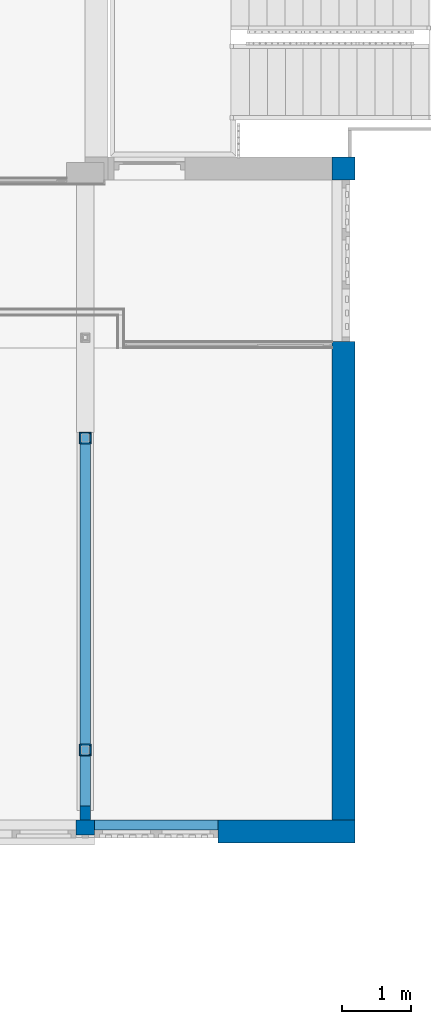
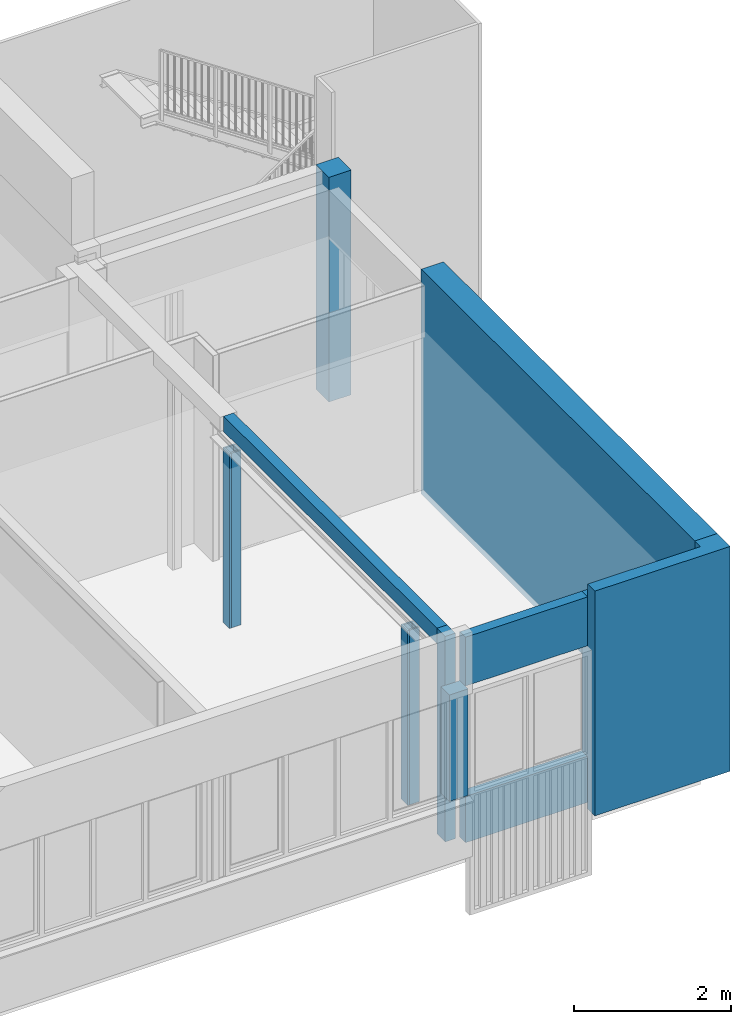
# One storey, part 65 of 117: 15 walls, 1 opening.
"""IFC2X3 building model written with IfcOpenShell, lengths in millimetres."""

from ifc_helpers import new_model, entity, si_unit, converted_unit, derived_unit, money_unit, direction, frame, origin_with_axes, place, context, subcontext, project, spatial, faceted_brep, material, type_object, element, save


model = new_model("IFC2X3")

# Units and contexts
model_context = context("Model", 3, precision=0.01, world=origin_with_axes(), true_north=direction((0.0, 1.0)))
body_context = subcontext(model_context, "Body", "Model", "MODEL_VIEW")
ifc_project = project(units=[si_unit("LENGTHUNIT", "METRE", prefix="MILLI"), si_unit("AREAUNIT", "SQUARE_METRE"), si_unit("VOLUMEUNIT", "CUBIC_METRE"), converted_unit("PLANEANGLEUNIT", "DEGREE", entity("IfcPlaneAngleMeasure", 0.0174532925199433), si_unit("PLANEANGLEUNIT", "RADIAN"), dimensions=[0, 0, 0, 0, 0, 0, 0]), money_unit("EUR"), converted_unit("TIMEUNIT", "Year", entity("IfcTimeMeasure", 31557600.0), si_unit("TIMEUNIT", "SECOND"), dimensions=[0, 0, 1, 0, 0, 0, 0]), si_unit("MASSUNIT", "GRAM", prefix="KILO"), si_unit("THERMODYNAMICTEMPERATUREUNIT", "DEGREE_CELSIUS"), si_unit("LUMINOUSINTENSITYUNIT", "LUMEN"), si_unit("ENERGYUNIT", "JOULE", prefix="MEGA"), derived_unit("THERMALCONDUCTANCEUNIT", [(si_unit("POWERUNIT", "WATT"), 1), (si_unit("LENGTHUNIT", "METRE"), -1), (si_unit("THERMODYNAMICTEMPERATUREUNIT", "KELVIN"), -1)]), derived_unit("SPECIFICHEATCAPACITYUNIT", [(si_unit("ENERGYUNIT", "JOULE"), 1), (si_unit("MASSUNIT", "GRAM", prefix="KILO"), -1), (si_unit("THERMODYNAMICTEMPERATUREUNIT", "KELVIN"), -1)]), derived_unit("MASSDENSITYUNIT", [(si_unit("MASSUNIT", "GRAM", prefix="KILO"), 1), (si_unit("VOLUMEUNIT", "CUBIC_METRE"), -1)])], contexts=[model_context])

# Site, building, storey
site_placement = place(None, origin_with_axes())
site = spatial("IfcSite", under=ifc_project, at=site_placement, Name="Site", CompositionType="ELEMENT")
building_placement = place(site_placement, origin_with_axes())
building = spatial("IfcBuilding", under=site, at=building_placement, Name="Naam gebouw", CompositionType="ELEMENT")
storey_placement = place(building_placement, frame((0.0, 0.0, 4150.0), z_axis=(0.0, 0.0, 1.0), x_axis=(1.0, 0.0, 0.0)))
storey = spatial("IfcBuildingStorey", under=building, at=storey_placement, Name="1e verdieping N", CompositionType="ELEMENT", Elevation=4150.0)

# Walls
ifc_material_1 = material(Name="ALG - CONSTRUCTIEF")
wall_type_1 = type_object("IfcWallType", Name="ALG - CONSTRUCTIEF 150", PredefinedType="NOTDEFINED")
wall_1_placement = place(storey_placement, frame((53999.99999999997, 10990.91242510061, -99.99999999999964), z_axis=(0.0, 0.0, 1.0), x_axis=(0.0, 1.0, 0.0)))
element("IfcWall", 1, at=wall_1_placement, inside=storey, type_object=wall_type_1, material=ifc_material_1, Name="_Wand-x", context=body_context, shape_type="Brep", body=[
    faceted_brep([(209.9999999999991, -75.00000000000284, 3300.0), (0.0, -75.00000000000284, 3300.0), (0.0, -75.00000000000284, 99.99999999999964), (209.9999999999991, -75.00000000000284, 99.99999999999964), (209.9999999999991, 75.00000000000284, 3300.0), (0.0, 75.00000000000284, 3300.0), (0.0, 75.00000000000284, 99.99999999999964), (209.9999999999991, 75.00000000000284, 99.99999999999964)], [[[0, 1, 2, 3]], [[4, 5, 1, 0]], [[1, 5, 6, 2]], [[2, 6, 7, 3]], [[4, 0, 3, 7]], [[5, 4, 7, 6]]]),
])
wall_type_2 = type_object("IfcWallType", Name="ALG - CONSTRUCTIEF 330", PredefinedType="NOTDEFINED")
wall_2_placement = place(storey_placement, frame((57599.99999999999, 10990.91242510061, -99.99999999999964), z_axis=(0.0, 0.0, 1.0), x_axis=(-1.0, 0.0, 0.0)))
element("IfcWall", 2, at=wall_2_placement, inside=storey, type_object=wall_type_2, material=ifc_material_1, Name="_Wand-x", context=body_context, shape_type="Brep", body=[
    faceted_brep([(0.0, 0.0, 0.0), (0.0, 0.0, 99.99999999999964), (1661.843280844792, 0.0, 99.99999999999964), (1661.843280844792, 0.0, 3300.0), (0.0, 0.0, 3300.0), (0.0, 0.0, 3500.0), (-329.9999999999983, 0.0, 3500.0), (-329.9999999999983, 0.0, 0.0), (0.0, 146.0000000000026, 99.99999999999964), (0.0, 146.0000000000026, 0.0), (1661.843280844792, 146.0000000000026, 99.99999999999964), (1661.843280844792, 146.0000000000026, 0.0), (1661.843280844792, 330.0000000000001, 0.0), (1661.843280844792, 330.0000000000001, 3500.0), (1661.843280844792, 146.0000000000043, 3500.0), (1661.843280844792, 146.0000000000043, 3300.0), (0.0, 146.0000000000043, 3300.0), (0.0, 146.0000000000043, 3500.0), (-329.9999999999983, 330.0000000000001, 3500.0), (-329.9999999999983, 330.0000000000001, 0.0)], [[[0, 1, 2, 3, 4, 5, 6, 7]], [[8, 1, 0, 9]], [[10, 2, 1, 8]], [[2, 10, 11, 12, 13, 14, 15, 3]], [[16, 4, 3, 15]], [[16, 17, 5, 4]], [[5, 17, 14, 13, 18, 6]], [[6, 18, 19, 7]], [[11, 9, 0, 7, 19, 12]], [[8, 9, 11, 10]], [[19, 18, 13, 12]], [[15, 14, 17, 16]]]),
])

# Wall, opening
wall_3_placement = place(storey_placement, frame((57599.99999999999, 20655.9124251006, -99.99999999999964), z_axis=(0.0, 0.0, 1.0), x_axis=(0.0, -1.0, 0.0)))
wall_3 = element("IfcWall", 3, at=wall_3_placement, inside=storey, type_object=wall_type_2, material=ifc_material_1, Name="_Wand-x", context=body_context, shape_type="Brep", body=[
    faceted_brep([(2684.999999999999, 259.999999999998, 0.0), (2684.999999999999, 0.0, 0.0), (2684.999999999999, 0.0, 3500.0), (2684.999999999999, 259.999999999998, 3500.0), (2684.999999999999, 329.9999999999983, 3500.0), (2684.999999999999, 329.9999999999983, 0.0), (9664.999999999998, 329.9999999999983, 0.0), (9664.999999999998, 0.0, 0.0), (9664.999999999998, 0.0, 3500.0), (9664.999999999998, 329.9999999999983, 3500.0)], [[[0, 1, 2, 3, 4, 5]], [[1, 0, 5, 6, 7]], [[2, 1, 7, 8]], [[3, 2, 8, 9, 4]], [[4, 9, 6, 5]], [[6, 9, 8, 7]]]),
    faceted_brep([(330.0000000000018, 0.0, 3500.0), (330.0000000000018, 259.999999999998, 3500.0), (330.0000000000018, 329.9999999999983, 3500.0), (0.0, 329.9999999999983, 3500.0), (0.0, 0.0, 3500.0), (330.0000000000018, 0.0, 0.0), (330.0000000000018, 259.999999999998, 0.0), (330.0000000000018, 329.9999999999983, 0.0), (0.0, 329.9999999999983, 0.0), (0.0, 0.0, 0.0)], [[[0, 1, 2, 3, 4]], [[1, 0, 5, 6, 7, 2]], [[7, 8, 3, 2]], [[8, 9, 4, 3]], [[5, 0, 4, 9]], [[6, 5, 9, 8, 7]]]),
])
opening_placement = place(wall_3_placement, frame((1507.5, 0.0, -959.9999999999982), z_axis=(0.0, 0.0, 1.0), x_axis=(1.0, 0.0, 0.0)))
element("IfcOpeningElement", 4, at=opening_placement, cuts=wall_3, Name="_Merk-039", context=body_context, shape_type="Brep", body=[
    faceted_brep([(-1177.499999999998, 259.999999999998, 0.0), (-1177.499999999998, 259.999999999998, 4500.0), (-1177.499999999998, 330.999999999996, 4500.0), (-1177.499999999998, 330.999999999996, 0.0), (-1177.499999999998, -0.9999999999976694, 0.0), (-1177.499999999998, -0.9999999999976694, 4500.0), (1177.499999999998, 259.999999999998, 4500.0), (1177.499999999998, 330.999999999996, 4500.0), (1177.499999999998, -0.9999999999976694, 4500.0), (1177.499999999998, 330.999999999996, 0.0), (1177.499999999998, 259.999999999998, 0.0), (1177.499999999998, -0.9999999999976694, 0.0)], [[[0, 1, 2, 3]], [[1, 0, 4, 5]], [[6, 7, 2, 1, 5, 8]], [[7, 9, 3, 2]], [[0, 3, 9, 10, 11, 4]], [[5, 4, 11, 8]], [[6, 10, 9, 7]], [[10, 6, 8, 11]]]),
])

# Walls
wall_type_3 = type_object("IfcWallType", Name="ALG - CONSTRUCTIEF 146", PredefinedType="NOTDEFINED")
wall_4_placement = place(storey_placement, frame((55937.49999999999, 10990.91242510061, 2440.0), z_axis=(0.0, 0.0, 1.0), x_axis=(-1.0, 0.0, 0.0)))
element("IfcWall", 5, at=wall_4_placement, inside=storey, type_object=wall_type_3, material=ifc_material_1, Name="_Wand-x", context=body_context, shape_type="Brep", body=[
    faceted_brep([(0.0, 146.0000000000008, 0.0), (1799.999999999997, 145.999999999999, 0.0), (1799.999999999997, 0.0, 0.0), (0.0, 0.0, 0.0), (0.0, 146.0000000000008, 760.0000000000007), (1799.999999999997, 146.0000000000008, 760.0000000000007), (1799.999999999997, 0.0, 760.0000000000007), (0.0, 0.0, 760.0000000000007)], [[[0, 1, 2, 3]], [[4, 5, 1, 0]], [[2, 1, 5, 6]], [[3, 2, 6, 7]], [[4, 0, 3, 7]], [[7, 6, 5, 4]]]),
])
wall_5_placement = place(storey_placement, frame((55937.49999999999, 10990.91242510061, 0.0), z_axis=(0.0, 0.0, 1.0), x_axis=(-1.0, 0.0, 0.0)))
element("IfcWall", 6, at=wall_5_placement, inside=storey, type_object=wall_type_3, material=ifc_material_1, Name="_Wand-x", context=body_context, shape_type="Brep", body=[
    faceted_brep([(0.0, 146.0000000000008, 0.0), (1799.999999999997, 145.999999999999, 0.0), (1799.999999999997, 0.0, 0.0), (0.0, 0.0, 0.0), (0.0, 146.0000000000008, 719.9999999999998), (1799.999999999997, 146.0000000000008, 719.9999999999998), (1799.999999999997, 0.0, 719.9999999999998), (0.0, 0.0, 719.9999999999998)], [[[0, 1, 2, 3]], [[4, 5, 1, 0]], [[2, 1, 5, 6]], [[3, 2, 6, 7]], [[4, 0, 3, 7]], [[7, 6, 5, 4]]]),
])
ifc_material_2 = material(Name="Gipsplaat")
wall_type_4 = type_object("IfcWallType", Name="Gipsplaat 25", PredefinedType="NOTDEFINED")
wall_6_placement = place(storey_placement, frame((53915.00000000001, 16475.91242510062, 0.0), z_axis=(0.0, 0.0, 1.0), x_axis=(1.0, 0.0, 0.0)))
element("IfcWall", 7, at=wall_6_placement, inside=storey, type_object=wall_type_4, material=ifc_material_2, Name="_Wand-x", context=body_context, shape_type="Brep", body=[
    faceted_brep([(169.9999999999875, 25.00000000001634, 0.0), (169.9999999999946, 0.0, 0.0), (24.99999999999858, 0.0, 0.0), (24.99999999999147, 24.99999999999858, 0.0), (169.9999999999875, 25.00000000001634, 2720.0), (169.9999999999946, 0.0, 2720.0), (24.99999999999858, 0.0, 2720.0), (24.99999999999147, 24.99999999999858, 2720.0)], [[[0, 1, 2, 3]], [[1, 0, 4, 5]], [[1, 5, 6, 2]], [[7, 3, 2, 6]], [[4, 0, 3, 7]], [[5, 4, 7, 6]]]),
])
wall_7_placement = place(storey_placement, frame((54085.00000000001, 11930.9124251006, 0.0), z_axis=(0.0, 0.0, 1.0), x_axis=(0.0, 1.0, 0.0)))
element("IfcWall", 8, at=wall_7_placement, inside=storey, type_object=wall_type_4, material=ifc_material_2, Name="_Wand-x", context=body_context, shape_type="Brep", body=[
    faceted_brep([(145.0000000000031, 25.00000000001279, 0.0), (145.0000000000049, 0.0, 0.0), (25.00000000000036, 0.0, 0.0), (25.00000000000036, 25.00000000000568, 0.0), (145.0000000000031, 25.00000000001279, 2720.0), (145.0000000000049, 0.0, 2720.0), (25.00000000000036, 0.0, 2720.0), (25.00000000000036, 25.00000000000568, 2720.0)], [[[0, 1, 2, 3]], [[1, 0, 4, 5]], [[1, 5, 6, 2]], [[7, 3, 2, 6]], [[4, 0, 3, 7]], [[5, 4, 7, 6]]]),
])
wall_8_placement = place(storey_placement, frame((53915.00000000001, 11930.91242510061, 0.0), z_axis=(0.0, 0.0, 1.0), x_axis=(0.0, 1.0, 0.0)))
element("IfcWall", 9, at=wall_8_placement, inside=storey, type_object=wall_type_4, material=ifc_material_2, Name="_Wand-x", context=body_context, shape_type="Brep", body=[
    faceted_brep([(169.999999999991, -24.99999999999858, 2720.0), (169.999999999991, 0.0, 2720.0), (0.0, 0.0, 2720.0), (0.0, -24.99999999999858, 2720.0), (169.999999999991, -24.99999999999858, 0.0), (169.999999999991, 0.0, 0.0), (0.0, 0.0, 0.0), (0.0, -24.99999999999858, 0.0)], [[[0, 1, 2, 3]], [[1, 0, 4, 5]], [[1, 5, 6, 2]], [[7, 3, 2, 6]], [[4, 0, 3, 7]], [[5, 4, 7, 6]]]),
])
wall_9_placement = place(storey_placement, frame((53915.00000000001, 11930.91242510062, 0.0), z_axis=(0.0, 0.0, 1.0), x_axis=(1.0, 0.0, 0.0)))
element("IfcWall", 10, at=wall_9_placement, inside=storey, type_object=wall_type_4, material=ifc_material_2, Name="_Wand-x", context=body_context, shape_type="Brep", body=[
    faceted_brep([(169.9999999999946, 25.00000000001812, 0.0), (169.9999999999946, 0.0, 0.0), (24.99999999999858, 0.0, 0.0), (24.99999999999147, 25.00000000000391, 0.0), (169.9999999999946, 25.00000000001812, 2720.0), (169.9999999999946, 0.0, 2720.0), (24.99999999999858, 0.0, 2720.0), (24.99999999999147, 25.00000000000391, 2720.0)], [[[0, 1, 2, 3]], [[1, 0, 4, 5]], [[1, 5, 6, 2]], [[7, 3, 2, 6]], [[4, 0, 3, 7]], [[5, 4, 7, 6]]]),
])
wall_10_placement = place(storey_placement, frame((53915.00000000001, 16645.9124251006, 0.0), z_axis=(0.0, 0.0, 1.0), x_axis=(1.0, 0.0, 0.0)))
element("IfcWall", 11, at=wall_10_placement, inside=storey, type_object=wall_type_4, material=ifc_material_2, Name="_Wand-x", context=body_context, shape_type="Brep", body=[
    faceted_brep([(170.0000000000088, -24.99999999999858, 2720.0), (170.0000000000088, 0.0, 2720.0), (24.99999999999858, 0.0, 2720.0), (24.99999999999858, -24.99999999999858, 2720.0), (170.0000000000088, -24.99999999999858, 0.0), (170.0000000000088, 0.0, 0.0), (24.99999999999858, 0.0, 0.0), (24.99999999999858, -24.99999999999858, 0.0)], [[[0, 1, 2, 3]], [[1, 0, 4, 5]], [[1, 5, 6, 2]], [[7, 3, 2, 6]], [[4, 0, 3, 7]], [[5, 4, 7, 6]]]),
])
wall_11_placement = place(storey_placement, frame((54085.00000000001, 16475.9124251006, 0.0), z_axis=(0.0, 0.0, 1.0), x_axis=(0.0, 1.0, 0.0)))
element("IfcWall", 12, at=wall_11_placement, inside=storey, type_object=wall_type_4, material=ifc_material_2, Name="_Wand-x", context=body_context, shape_type="Brep", body=[
    faceted_brep([(145.0000000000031, 25.00000000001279, 0.0), (145.0000000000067, 0.0, 0.0), (24.99999999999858, 0.0, 0.0), (24.99999999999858, 24.99999999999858, 0.0), (145.0000000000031, 25.00000000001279, 2720.0), (145.0000000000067, 0.0, 2720.0), (24.99999999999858, 0.0, 2720.0), (24.99999999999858, 24.99999999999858, 2720.0)], [[[0, 1, 2, 3]], [[1, 0, 4, 5]], [[1, 5, 6, 2]], [[7, 3, 2, 6]], [[4, 0, 3, 7]], [[5, 4, 7, 6]]]),
])
wall_12_placement = place(storey_placement, frame((53915.00000000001, 16475.91242510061, 0.0), z_axis=(0.0, 0.0, 1.0), x_axis=(0.0, 1.0, 0.0)))
element("IfcWall", 13, at=wall_12_placement, inside=storey, type_object=wall_type_4, material=ifc_material_2, Name="_Wand-x", context=body_context, shape_type="Brep", body=[
    faceted_brep([(169.999999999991, -24.99999999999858, 2720.0), (169.999999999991, 0.0, 2720.0), (0.0, 0.0, 2720.0), (0.0, -24.99999999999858, 2720.0), (169.999999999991, -24.99999999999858, 0.0), (169.999999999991, 0.0, 0.0), (0.0, 0.0, 0.0), (0.0, -24.99999999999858, 0.0)], [[[0, 1, 2, 3]], [[1, 0, 4, 5]], [[1, 5, 6, 2]], [[7, 3, 2, 6]], [[4, 0, 3, 7]], [[5, 4, 7, 6]]]),
])
wall_13_placement = place(storey_placement, frame((53915.00000000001, 12100.9124251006, 0.0), z_axis=(0.0, 0.0, 1.0), x_axis=(1.0, 0.0, 0.0)))
element("IfcWall", 14, at=wall_13_placement, inside=storey, type_object=wall_type_4, material=ifc_material_2, Name="_Wand-x", context=body_context, shape_type="Brep", body=[
    faceted_brep([(170.0000000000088, -25.00000000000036, 2720.0), (170.0000000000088, 0.0, 2720.0), (24.99999999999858, 0.0, 2720.0), (24.99999999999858, -25.00000000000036, 2720.0), (170.0000000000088, -25.00000000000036, 0.0), (170.0000000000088, 0.0, 0.0), (24.99999999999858, 0.0, 0.0), (24.99999999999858, -25.00000000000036, 0.0)], [[[0, 1, 2, 3]], [[1, 0, 4, 5]], [[1, 5, 6, 2]], [[7, 3, 2, 6]], [[4, 0, 3, 7]], [[5, 4, 7, 6]]]),
])
ifc_material_3 = material(Name="ALG - GEVEL")
wall_type_5 = type_object("IfcWallType", Name="ALG - GEVEL 260", PredefinedType="NOTDEFINED")
wall_14_placement = place(storey_placement, frame((54137.49999999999, 10730.9124251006, 783.0000000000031), z_axis=(0.0, 0.0, 1.0), x_axis=(-1.0, 0.0, 0.0)))
element("IfcWall", 15, at=wall_14_placement, inside=storey, type_object=wall_type_5, material=ifc_material_3, Name="_Wand-x", context=body_context, shape_type="Brep", body=[
    faceted_brep([(275.0000000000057, -44.00000000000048, 1656.999999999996), (0.0, -44.00000000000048, 1656.999999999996), (0.0, -259.9999999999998, 1656.999999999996), (275.0000000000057, -259.9999999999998, 1656.999999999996), (275.0000000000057, -44.00000000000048, 0.0), (0.0, -44.00000000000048, 0.0), (0.0, -259.9999999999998, 0.0), (275.0000000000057, -259.9999999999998, 0.0)], [[[0, 1, 2, 3]], [[0, 4, 5, 1]], [[2, 1, 5, 6]], [[3, 2, 6, 7]], [[7, 4, 0, 3]], [[5, 4, 7, 6]]]),
])
ifc_material_4 = material(Name="Steen - Betonblok")
wall_type_6 = type_object("IfcWallType", Name="Steen - Betonblok 150", PredefinedType="NOTDEFINED")
wall_15_placement = place(storey_placement, frame((54000.0, 16645.91242510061, 2960.000000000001), z_axis=(0.0, 0.0, 1.0), x_axis=(0.0, -1.0, 0.0)))
element("IfcWall", 16, at=wall_15_placement, inside=storey, type_object=wall_type_6, material=ifc_material_4, Name="_Wand-x", context=body_context, shape_type="Brep", body=[
    faceted_brep([(0.0, 75.00000000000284, 239.9999999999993), (0.0, -75.00000000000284, 239.9999999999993), (5515.000000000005, -75.00000000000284, 239.9999999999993), (5515.000000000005, 75.00000000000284, 239.9999999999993), (0.0, 75.00000000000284, 0.0), (0.0, -75.00000000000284, 0.0), (5515.000000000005, -75.00000000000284, 0.0), (5515.000000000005, 75.00000000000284, 0.0)], [[[0, 1, 2, 3]], [[4, 5, 1, 0]], [[1, 5, 6, 2]], [[7, 3, 2, 6]], [[4, 0, 3, 7]], [[5, 4, 7, 6]]]),
])

save(model, "model.ifc")
